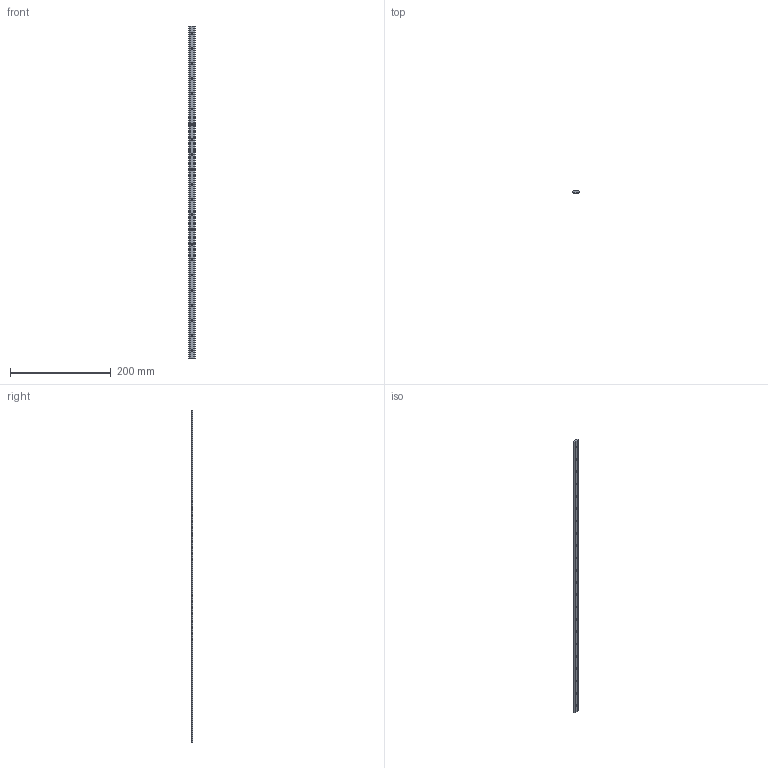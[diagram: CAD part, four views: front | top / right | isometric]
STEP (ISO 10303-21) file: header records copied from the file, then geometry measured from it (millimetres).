
FILE_DESCRIPTION(('STEP AP203'),'1');
FILE_NAME('//192.168.1.1/share/s-4 技術開発/s-4-4_CAD/s-4-4-6_見直し、確認済み/014 修正済み(済)/GF_TOP/GF-12C-660.step','2022-03-14T00:55:21',(' '),(' '),'Spatial InterOp 3D',' ',' ');
FILE_SCHEMA(('CONFIG_CONTROL_DESIGN'));
Length unit declared in the file: millimetre
Products named in the file (1): 1
Bounding box: 12.36 x 3.2 x 660 mm (x, y, z)
Volume: 21559.4 mm3; surface area: 19208 mm2
Topology: 1 solids, 1 shells, 80 faces, 256 edges, 178 vertices
Faces by surface type: cone 44, cylinder 26, plane 10
Full cylindrical faces by diameter (mm): 3.5 x22
Entity records: 2100 total; most frequent: DIRECTION 382, CARTESIAN_POINT 317, ORIENTED_EDGE 248, EDGE_LOOP 190, AXIS2_PLACEMENT_3D 177, EDGE_CURVE 124, VERTEX_POINT 112, FACE_OUTER_BOUND 102
